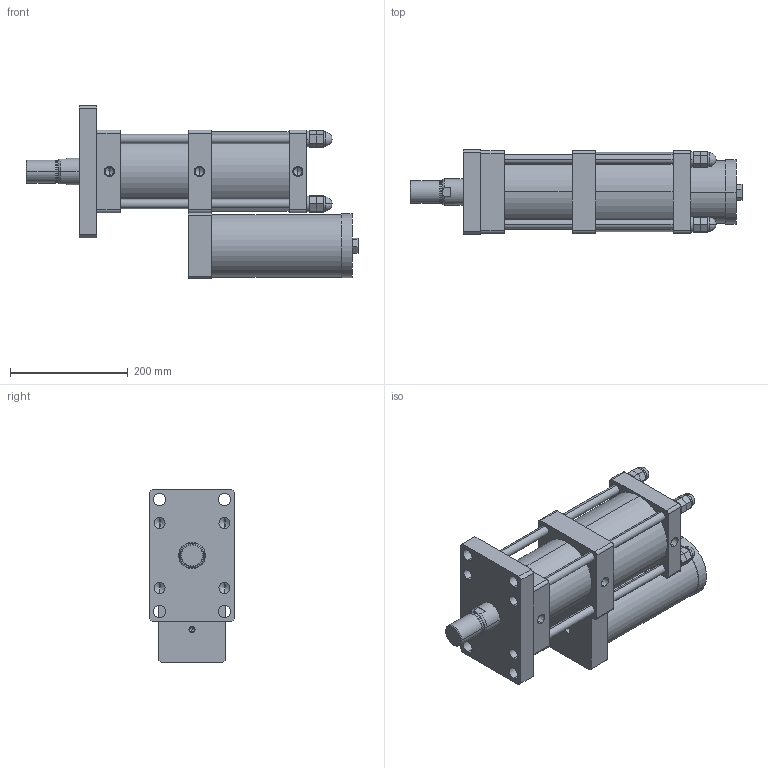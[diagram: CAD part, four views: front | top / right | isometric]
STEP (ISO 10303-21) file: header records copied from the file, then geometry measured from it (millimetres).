
FILE_DESCRIPTION (( 'STEP AP203' ), '1' );
FILE_NAME ('MPT-100-50-5-13T.STEP', '2016-03-11T05:42:17', ( 'WIN' ), ( '' ), 'SwSTEP 2.0', 'SolidWorks 2014', '' );
FILE_SCHEMA (( 'CONFIG_CONTROL_DESIGN' ));
Length unit declared in the file: millimetre
Products named in the file (1): MPT-100-50-5-13T
Bounding box: 563 x 145 x 294.5 mm (x, y, z)
Volume: 9062400.5 mm3; surface area: 623641.4 mm2
Topology: 13 solids, 13 shells, 400 faces, 980 edges, 555 vertices
Faces by surface type: plane 188, cylinder 80, torus 48, bspline 48, cone 36
Entity records: 12751 total; most frequent: CARTESIAN_POINT 3688, DIRECTION 1936, ORIENTED_EDGE 1812, EDGE_CURVE 906, AXIS2_PLACEMENT_3D 727, VERTEX_POINT 555, LINE 482, VECTOR 482
